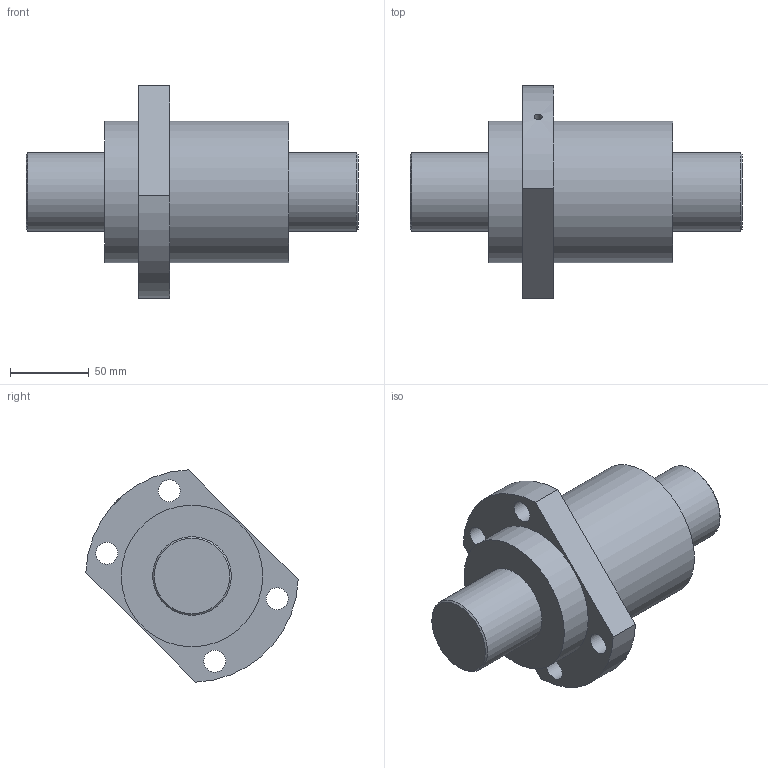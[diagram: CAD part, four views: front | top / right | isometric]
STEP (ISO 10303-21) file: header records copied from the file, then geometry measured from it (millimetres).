
FILE_DESCRIPTION (( 'STEP AP203' ), '1' );
FILE_NAME ('SFYA50100-1.6.STEP', '2023-05-25T07:03:22', ( '' ), ( '' ), 'SwSTEP 2.0', 'SolidWorks 2022', '' );
FILE_SCHEMA (( 'CONFIG_CONTROL_DESIGN' ));
Length unit declared in the file: millimetre
Products named in the file (1): SFYA50100-1.6
Bounding box: 211 x 134.91 x 134.91 mm (x, y, z)
Volume: 1016416.1 mm3; surface area: 112112.9 mm2
Topology: 2 solids, 2 shells, 24 faces, 51 edges, 35 vertices
Faces by surface type: cylinder 13, plane 9, cone 2
Full cylindrical faces by diameter (mm): 4 x1, 5 x1, 14 x4, 50 x2, 90 x2
Entity records: 847 total; most frequent: CARTESIAN_POINT 287, DIRECTION 106, ORIENTED_EDGE 68, EDGE_LOOP 50, AXIS2_PLACEMENT_3D 49, EDGE_CURVE 34, FACE_OUTER_BOUND 34, VERTEX_POINT 30
